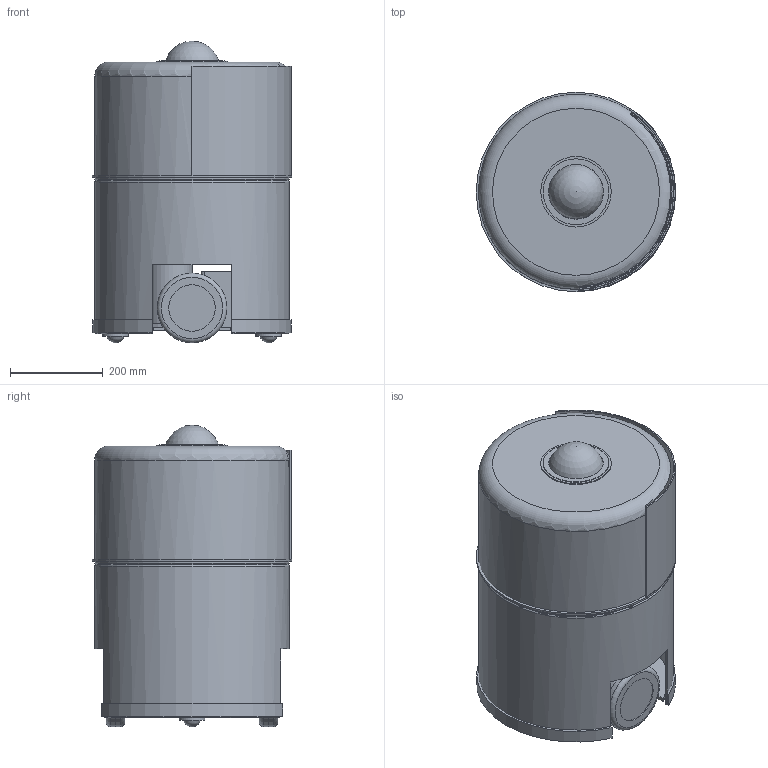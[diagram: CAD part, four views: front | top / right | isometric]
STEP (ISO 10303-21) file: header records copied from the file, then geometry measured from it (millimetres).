
FILE_DESCRIPTION(('Open CASCADE Model'),'2;1');
FILE_NAME('Open CASCADE Shape Model','2026-10-19T19:48:08',('Author'),( 'Open CASCADE'),'Open CASCADE STEP processor 7.9','Open CASCADE 7.9' ,'Unknown');
FILE_SCHEMA(('AUTOMOTIVE_DESIGN { 1 0 10303 214 1 1 1 1 }'));
Length unit declared in the file: millimetre
Products named in the file (51): HR1_home_robot; base_shell; base_bumper; base_chassis_plate; wheel_tire_L; wheel_hub_L; drive_motor_L; motor_bracket_L; wheel_tire_R; wheel_hub_R; drive_motor_R; motor_bracket_R; caster_housing_F; caster_ball_F; caster_housing_B; caster_ball_B; battery_pack; electronics_tray; column_stage0; column_flange; column_stage1; column_bushing1; column_stage2; column_bushing2; column_stage3; column_bushing3; column_actuator; upper_shell; upper_base_plate; upper_bridge; upper_post_L; upper_post_R; arm_door; door_track; dome_trim; dome_light; camera_pan_base; camera_eye; camera_lens; camera_dome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
Assembly tree (50 placements, depth 2):
  HR1_home_robot
    base_shell
    base_bumper
    base_chassis_plate
    wheel_tire_L
    wheel_hub_L
    drive_motor_L
    motor_bracket_L
    wheel_tire_R
    wheel_hub_R
    drive_motor_R
    motor_bracket_R
    caster_housing_F
    caster_ball_F
    caster_housing_B
    caster_ball_B
    battery_pack
    electronics_tray
    column_stage0
    column_flange
    column_stage1
    column_bushing1
    column_stage2
    column_bushing2
    column_stage3
    column_bushing3
    column_actuator
    upper_shell
    upper_base_plate
    upper_bridge
    upper_post_L
    upper_post_R
    arm_door
    door_track
    dome_trim
    dome_light
    camera_pan_base
    camera_eye
    camera_lens
    camera_dome
    arm_j1_actuator
    arm_turret
    arm_j2_actuator
    arm_upper_link
    arm_j3_actuator
    arm_fore_link
    arm_j4_actuator
    arm_j5_actuator
    gripper_body
    gripper_finger_L
    gripper_finger_R
Bounding box: 430 x 430 x 650 mm (x, y, z)
Volume: 13287649.1 mm3; surface area: 4331721 mm2
Topology: 52 solids, 52 shells, 265 faces, 482 edges, 312 vertices
Faces by surface type: plane 159, cylinder 91, torus 10, sphere 5
Full cylindrical faces by diameter (mm): 8 x1, 18 x1, 22 x4, 28 x1, 36 x1, 42 x1, 50 x3, 56 x2, 58 x1, 60 x4, 64 x2, 66 x2, 70 x3, 76 x2, 80 x4, 82 x2, 88 x2, 94 x2, 96 x1, 100 x9, 108 x2, 118 x1, 124 x1, 140 x1, 142 x2, 150 x4, 152 x1, 412 x1, 414 x2, 418 x1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
Entity records: 14166 total; most frequent: CARTESIAN_POINT 2806, DIRECTION 2035, ORIENTED_EDGE 942, PCURVE 942, DEFINITIONAL_REPRESENTATION 942, LINE 905, VECTOR 905, AXIS2_PLACEMENT_3D 516
